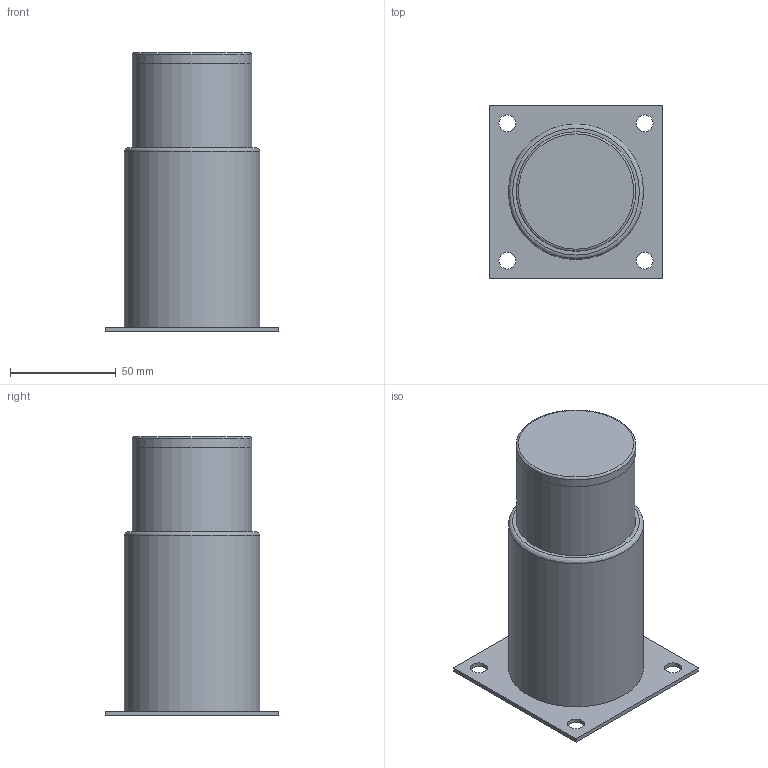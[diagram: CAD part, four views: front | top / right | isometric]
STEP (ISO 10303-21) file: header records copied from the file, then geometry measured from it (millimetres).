
FILE_DESCRIPTION(('STEP AP203'),'2;1');
FILE_NAME('50010.stp','2016-07-12T13:12:26',(''),(''),'2008.1.107','THINKDESIGN','');
FILE_SCHEMA(('CONFIG_CONTROL_DESIGN'));
Length unit declared in the file: millimetre
Bounding box: 82 x 82 x 132 mm (x, y, z)
Volume: 277275.8 mm3; surface area: 58383.5 mm2
Topology: 3 solids, 3 shells, 23 faces, 61 edges, 46 vertices
Faces by surface type: plane 12, cylinder 8, bspline 3
Full cylindrical faces by diameter (mm): 8 x4, 50 x1, 56.5 x1, 56.6 x1, 64 x1
Entity records: 1648 total; most frequent: CARTESIAN_POINT 918, DIRECTION 142, ORIENTED_EDGE 122, AXIS2_PLACEMENT_3D 61, EDGE_CURVE 61, VERTEX_POINT 46, CIRCLE 41, EDGE_LOOP 33
